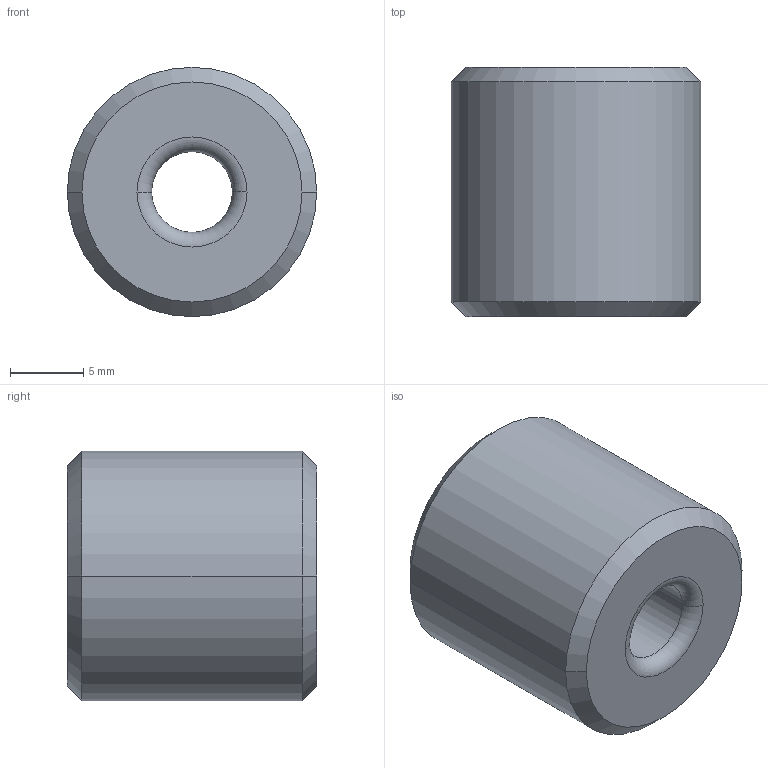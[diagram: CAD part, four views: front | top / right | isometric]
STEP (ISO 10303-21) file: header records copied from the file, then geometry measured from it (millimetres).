
FILE_DESCRIPTION((''),'2;1');
FILE_NAME('P401','2012-01-12T',('mth'),(''),'PRO/ENGINEER BY PARAMETRIC TECHNOLOGY CORPORATION, 2010280','PRO/ENGINEER BY PARAMETRIC TECHNOLOGY CORPORATION, 2010280','');
FILE_SCHEMA(('CONFIG_CONTROL_DESIGN','SHAPE_APPEARANCE_LAYERS_GROUPS'));
Length unit declared in the file: millimetre
Products named in the file (1): P401
Bounding box: 17 x 17 x 17 mm (x, y, z)
Volume: 3395.4 mm3; surface area: 1529 mm2
Topology: 1 solids, 1 shells, 14 faces, 28 edges, 16 vertices
Faces by surface type: torus 4, cylinder 4, cone 4, plane 2
Entity records: 422 total; most frequent: DIRECTION 76, CARTESIAN_POINT 58, ORIENTED_EDGE 56, AXIS2_PLACEMENT_3D 34, EDGE_CURVE 28, CIRCLE 20, VERTEX_POINT 16, EDGE_LOOP 16
